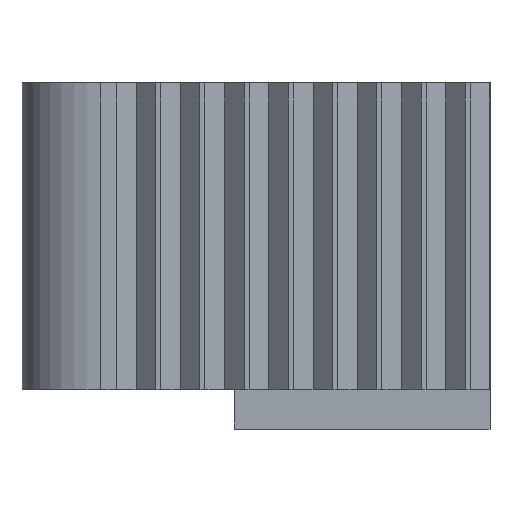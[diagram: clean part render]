
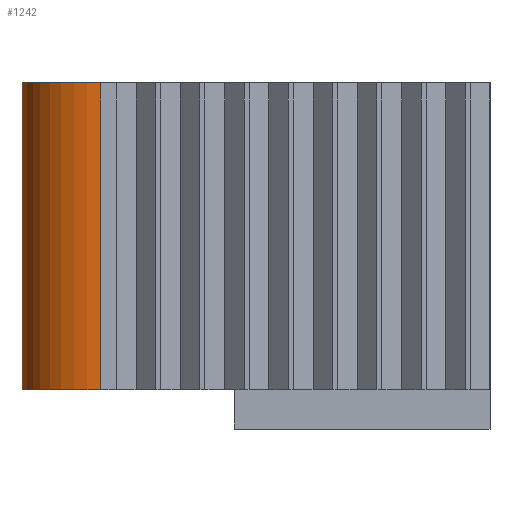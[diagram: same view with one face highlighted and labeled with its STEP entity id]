
A CAD part, left-side view. The second image highlights one B-rep face of the part: STEP entity #1242.
In plain terms, the highlighted cylindrical face has radius 2 mm (diameter 4 mm), a partial arc.
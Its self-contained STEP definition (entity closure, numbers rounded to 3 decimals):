
#29=CYLINDRICAL_SURFACE('',#1343,2.);
#31=CIRCLE('',#1278,2.);
#43=CIRCLE('',#1313,2.);
#108=FACE_OUTER_BOUND('',#170,.T.);
#170=EDGE_LOOP('',(#1114,#1115,#1116,#1117));
#255=LINE('',#1853,#408);
#324=LINE('',#2029,#477);
#408=VECTOR('',#1480,10.);
#477=VECTOR('',#1667,10.);
#532=VERTEX_POINT('',#1809);
#533=VERTEX_POINT('',#1811);
#549=VERTEX_POINT('',#1851);
#581=VERTEX_POINT('',#1948);
#661=EDGE_CURVE('',#532,#533,#31,.T.);
#685=EDGE_CURVE('',#532,#549,#255,.T.);
#734=EDGE_CURVE('',#581,#549,#43,.T.);
#773=EDGE_CURVE('',#533,#581,#324,.T.);
#1114=ORIENTED_EDGE('',*,*,#685,.T.);
#1115=ORIENTED_EDGE('',*,*,#734,.F.);
#1116=ORIENTED_EDGE('',*,*,#773,.F.);
#1117=ORIENTED_EDGE('',*,*,#661,.F.);
#1242=ADVANCED_FACE('',(#108),#29,.T.);
#1278=AXIS2_PLACEMENT_3D('',#1812,#1448,#1449);
#1313=AXIS2_PLACEMENT_3D('',#1950,#1573,#1574);
#1343=AXIS2_PLACEMENT_3D('',#2028,#1665,#1666);
#1448=DIRECTION('center_axis',(0.,0.,-1.));
#1449=DIRECTION('ref_axis',(0.,1.,0.));
#1480=DIRECTION('',(0.,0.,1.));
#1573=DIRECTION('center_axis',(0.,0.,1.));
#1574=DIRECTION('ref_axis',(0.,1.,0.));
#1665=DIRECTION('center_axis',(0.,0.,1.));
#1666=DIRECTION('ref_axis',(0.,1.,0.));
#1667=DIRECTION('',(0.,0.,1.));
#1809=CARTESIAN_POINT('',(-2.,-2.,-3.9));
#1811=CARTESIAN_POINT('',(0.,0.,-3.9));
#1812=CARTESIAN_POINT('Origin',(0.,-2.,-3.9));
#1851=CARTESIAN_POINT('',(-2.,-2.,3.9));
#1853=CARTESIAN_POINT('',(-2.,-2.,0.));
#1948=CARTESIAN_POINT('',(0.,0.,3.9));
#1950=CARTESIAN_POINT('Origin',(0.,-2.,3.9));
#2028=CARTESIAN_POINT('Origin',(0.,-2.,0.));
#2029=CARTESIAN_POINT('',(0.,0.,0.));
